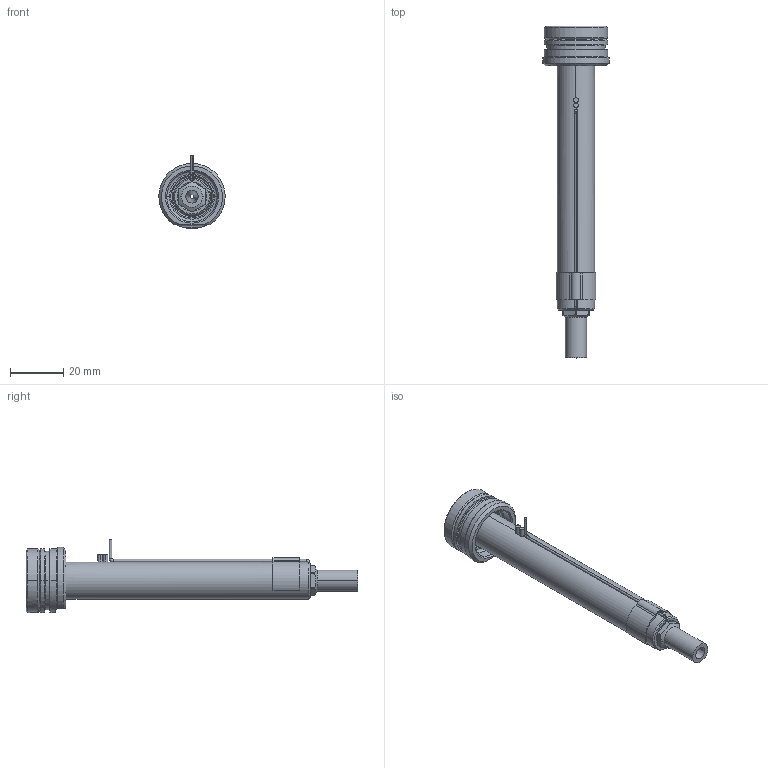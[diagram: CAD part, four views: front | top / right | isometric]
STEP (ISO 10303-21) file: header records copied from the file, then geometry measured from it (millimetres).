
FILE_DESCRIPTION((''),'2;1');
FILE_NAME('EO04_SG_ESG_100_SW','2024-02-19T12:13:57',('sundharh'),(''),'CREO PARAMETRIC BY PTC INC, 2023154','CREO PARAMETRIC BY PTC INC, 2023154','');
FILE_SCHEMA(('CONFIG_CONTROL_DESIGN'));
Length unit declared in the file: millimetre
Products named in the file (1): EO04_SG_ESG_100_SW
Bounding box: 24.99 x 125 x 27.5 mm (x, y, z)
Volume: 19727.6 mm3; surface area: 9899.2 mm2
Topology: 2 solids, 2 shells, 181 faces, 461 edges, 276 vertices
Faces by surface type: cylinder 67, plane 44, cone 34, torus 22, bspline 11, sphere 3
Entity records: 6422 total; most frequent: CARTESIAN_POINT 2052, DIRECTION 944, ORIENTED_EDGE 902, EDGE_CURVE 451, AXIS2_PLACEMENT_3D 392, VERTEX_POINT 276, CIRCLE 222, EDGE_LOOP 195
